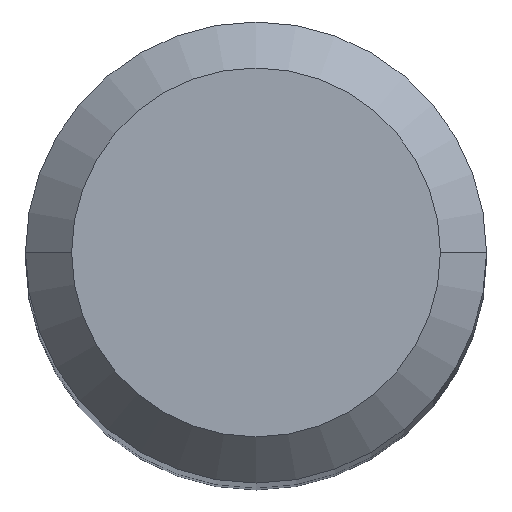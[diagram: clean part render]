
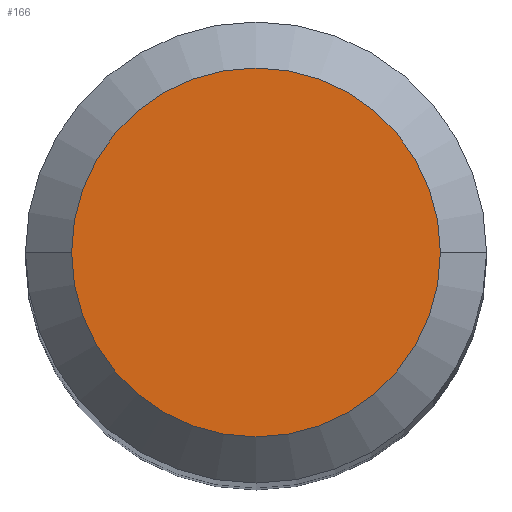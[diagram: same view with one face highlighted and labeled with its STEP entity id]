
A CAD part, top view. The second image highlights one B-rep face of the part: STEP entity #166.
In plain terms, the highlighted planar face has unit normal (0, 0, 1).
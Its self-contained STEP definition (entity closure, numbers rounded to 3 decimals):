
#5 = CIRCLE ( 'NONE', #147, 4. ) ;
#8 = VERTEX_POINT ( 'NONE', #250 ) ;
#32 = EDGE_CURVE ( 'NONE', #8, #259, #5, .T. ) ;
#57 = PLANE ( 'NONE',  #271 ) ;
#61 = EDGE_CURVE ( 'NONE', #259, #8, #171, .T. ) ;
#77 = CARTESIAN_POINT ( 'NONE',  ( 0., 0., 0. ) ) ;
#78 = DIRECTION ( 'NONE',  ( 0., 0., -1. ) ) ;
#110 = AXIS2_PLACEMENT_3D ( 'NONE', #77, #319, #315 ) ;
#130 = ORIENTED_EDGE ( 'NONE', *, *, #61, .F. ) ;
#147 = AXIS2_PLACEMENT_3D ( 'NONE', #283, #78, #193 ) ;
#166 = ADVANCED_FACE ( 'NONE', ( #366 ), #57, .T. ) ;
#171 = CIRCLE ( 'NONE', #110, 4. ) ;
#185 = EDGE_LOOP ( 'NONE', ( #341, #130 ) ) ;
#193 = DIRECTION ( 'NONE',  ( -1., 0., 0. ) ) ;
#229 = DIRECTION ( 'NONE',  ( 1., 0., 0. ) ) ;
#250 = CARTESIAN_POINT ( 'NONE',  ( -4., 0., 0. ) ) ;
#259 = VERTEX_POINT ( 'NONE', #340 ) ;
#264 = DIRECTION ( 'NONE',  ( 0., 0., 1. ) ) ;
#271 = AXIS2_PLACEMENT_3D ( 'NONE', #326, #264, #229 ) ;
#283 = CARTESIAN_POINT ( 'NONE',  ( 0., 0., 0. ) ) ;
#315 = DIRECTION ( 'NONE',  ( -1., 0., 0. ) ) ;
#319 = DIRECTION ( 'NONE',  ( 0., 0., -1. ) ) ;
#326 = CARTESIAN_POINT ( 'NONE',  ( 0., 4., 0. ) ) ;
#340 = CARTESIAN_POINT ( 'NONE',  ( 4., 0., 0. ) ) ;
#341 = ORIENTED_EDGE ( 'NONE', *, *, #32, .F. ) ;
#366 = FACE_OUTER_BOUND ( 'NONE', #185, .T. ) ;
